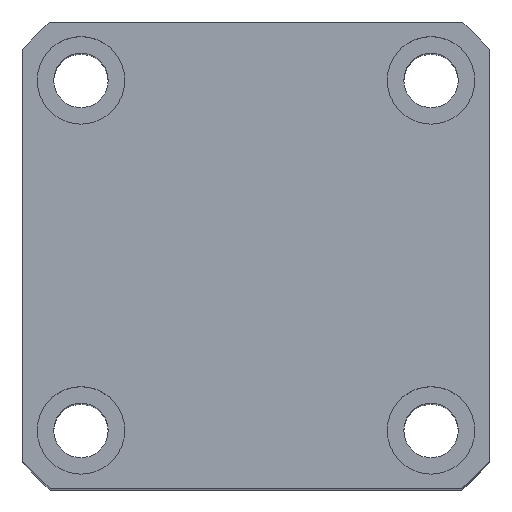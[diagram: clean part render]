
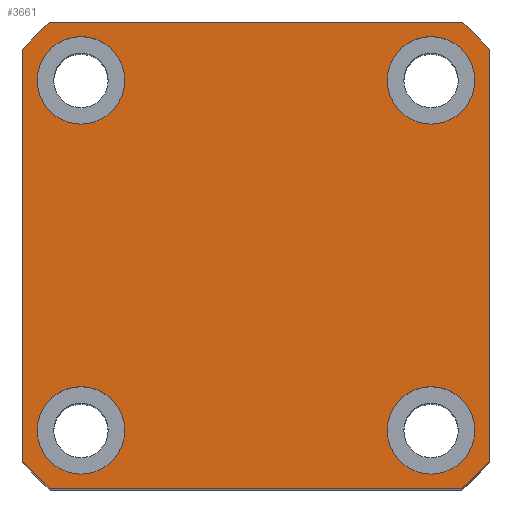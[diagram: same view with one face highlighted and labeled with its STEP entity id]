
A CAD part, top view. The second image highlights one B-rep face of the part: STEP entity #3661.
In plain terms, the highlighted planar face has unit normal (0, 0, 1) as drawn and (1, 0, 0) by its records, which use the part's own axes.
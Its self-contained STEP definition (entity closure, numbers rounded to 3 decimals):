
#20 = EDGE_CURVE ( 'NONE', #6893, #7497, #6027, .T. ) ;
#34 = ORIENTED_EDGE ( 'NONE', *, *, #2270, .T. ) ;
#135 = ORIENTED_EDGE ( 'NONE', *, *, #725, .T. ) ;
#136 = EDGE_CURVE ( 'NONE', #5749, #6893, #7456, .T. ) ;
#175 = CARTESIAN_POINT ( 'NONE',  ( 75., 18., -22.5 ) ) ;
#290 = AXIS2_PLACEMENT_3D ( 'NONE', #2028, #6353, #2655 ) ;
#330 = EDGE_CURVE ( 'NONE', #2389, #5749, #2932, .T. ) ;
#376 = CARTESIAN_POINT ( 'NONE',  ( 75., 24., 21.166 ) ) ;
#396 = ORIENTED_EDGE ( 'NONE', *, *, #5727, .F. ) ;
#493 = DIRECTION ( 'NONE',  ( 1., 0., 0. ) ) ;
#514 = DIRECTION ( 'NONE',  ( 0., 1., 0. ) ) ;
#526 = CIRCLE ( 'NONE', #290, 4.5 ) ;
#586 = CARTESIAN_POINT ( 'NONE',  ( 75., 24., -24. ) ) ;
#621 = VERTEX_POINT ( 'NONE', #5380 ) ;
#698 = CARTESIAN_POINT ( 'NONE',  ( 75., -18., -13.5 ) ) ;
#725 = EDGE_CURVE ( 'NONE', #7164, #621, #3685, .T. ) ;
#807 = ORIENTED_EDGE ( 'NONE', *, *, #20, .T. ) ;
#917 = DIRECTION ( 'NONE',  ( 1., 0., 0. ) ) ;
#933 = VERTEX_POINT ( 'NONE', #4382 ) ;
#990 = EDGE_CURVE ( 'NONE', #7497, #933, #3775, .T. ) ;
#1060 = AXIS2_PLACEMENT_3D ( 'NONE', #5251, #1527, #5865 ) ;
#1171 = CARTESIAN_POINT ( 'NONE',  ( 75., -18., 22.5 ) ) ;
#1298 = EDGE_CURVE ( 'NONE', #4623, #3463, #6117, .T. ) ;
#1354 = VERTEX_POINT ( 'NONE', #2365 ) ;
#1400 = EDGE_CURVE ( 'NONE', #3550, #5924, #5737, .T. ) ;
#1449 = CARTESIAN_POINT ( 'NONE',  ( 75., -21.166, -24. ) ) ;
#1452 = FACE_BOUND ( 'NONE', #7774, .T. ) ;
#1455 = CARTESIAN_POINT ( 'NONE',  ( 75., 0., 0. ) ) ;
#1527 = DIRECTION ( 'NONE',  ( 1., 0., 0. ) ) ;
#1645 = CIRCLE ( 'NONE', #1060, 4.5 ) ;
#1787 = VERTEX_POINT ( 'NONE', #175 ) ;
#1855 = FACE_BOUND ( 'NONE', #2293, .T. ) ;
#1866 = CARTESIAN_POINT ( 'NONE',  ( 75., -24., 21.166 ) ) ;
#1975 = EDGE_LOOP ( 'NONE', ( #807, #5551, #7912, #7898, #135, #34, #6076, #6562 ) ) ;
#1980 = DIRECTION ( 'NONE',  ( 0., 0., -1. ) ) ;
#2028 = CARTESIAN_POINT ( 'NONE',  ( 75., 18., -18. ) ) ;
#2088 = CARTESIAN_POINT ( 'NONE',  ( 75., 21.166, -24. ) ) ;
#2207 = DIRECTION ( 'NONE',  ( 1., 0., 0. ) ) ;
#2216 = AXIS2_PLACEMENT_3D ( 'NONE', #3588, #2242, #2229 ) ;
#2229 = DIRECTION ( 'NONE',  ( 0., 0., -1. ) ) ;
#2242 = DIRECTION ( 'NONE',  ( 1., 0., 0. ) ) ;
#2260 = EDGE_LOOP ( 'NONE', ( #5970, #396 ) ) ;
#2270 = EDGE_CURVE ( 'NONE', #621, #2389, #6493, .T. ) ;
#2287 = CARTESIAN_POINT ( 'NONE',  ( 75., 0., 0. ) ) ;
#2293 = EDGE_LOOP ( 'NONE', ( #3316, #3337 ) ) ;
#2365 = CARTESIAN_POINT ( 'NONE',  ( 75., 18., -13.5 ) ) ;
#2389 = VERTEX_POINT ( 'NONE', #1866 ) ;
#2489 = CARTESIAN_POINT ( 'NONE',  ( 75., 18., 18. ) ) ;
#2490 = DIRECTION ( 'NONE',  ( 1., 0., 0. ) ) ;
#2495 = DIRECTION ( 'NONE',  ( 0., 0., -1. ) ) ;
#2507 = CARTESIAN_POINT ( 'NONE',  ( 75., -18., 18. ) ) ;
#2616 = CIRCLE ( 'NONE', #5482, 4.5 ) ;
#2655 = DIRECTION ( 'NONE',  ( 0., 0., -1. ) ) ;
#2687 = ORIENTED_EDGE ( 'NONE', *, *, #7408, .F. ) ;
#2696 = VERTEX_POINT ( 'NONE', #4759 ) ;
#2741 = VERTEX_POINT ( 'NONE', #1171 ) ;
#2797 = VERTEX_POINT ( 'NONE', #376 ) ;
#2826 = CARTESIAN_POINT ( 'NONE',  ( 75., -18., -22.5 ) ) ;
#2906 = DIRECTION ( 'NONE',  ( 0., 0., -1. ) ) ;
#2932 = LINE ( 'NONE', #6322, #6688 ) ;
#2961 = ORIENTED_EDGE ( 'NONE', *, *, #7230, .F. ) ;
#3005 = AXIS2_PLACEMENT_3D ( 'NONE', #2287, #6597, #2906 ) ;
#3054 = CARTESIAN_POINT ( 'NONE',  ( 75., 18., -18. ) ) ;
#3075 = ORIENTED_EDGE ( 'NONE', *, *, #1298, .F. ) ;
#3126 = DIRECTION ( 'NONE',  ( 0., 0., -1. ) ) ;
#3138 = DIRECTION ( 'NONE',  ( 0., 0., -1. ) ) ;
#3162 = DIRECTION ( 'NONE',  ( 1., 0., 0. ) ) ;
#3237 = CARTESIAN_POINT ( 'NONE',  ( 75., 0., 0. ) ) ;
#3279 = AXIS2_PLACEMENT_3D ( 'NONE', #5910, #2207, #6521 ) ;
#3316 = ORIENTED_EDGE ( 'NONE', *, *, #6450, .F. ) ;
#3337 = ORIENTED_EDGE ( 'NONE', *, *, #1400, .F. ) ;
#3374 = VECTOR ( 'NONE', #6611, 1000. ) ;
#3381 = AXIS2_PLACEMENT_3D ( 'NONE', #3054, #7365, #3663 ) ;
#3463 = VERTEX_POINT ( 'NONE', #698 ) ;
#3489 = VECTOR ( 'NONE', #4983, 1000. ) ;
#3550 = VERTEX_POINT ( 'NONE', #6018 ) ;
#3588 = CARTESIAN_POINT ( 'NONE',  ( 75., -18., -18. ) ) ;
#3661 = ADVANCED_FACE ( 'NONE', ( #6402, #4944, #1452, #1855, #7851 ), #3833, .T. ) ;
#3663 = DIRECTION ( 'NONE',  ( 0., 0., -1. ) ) ;
#3685 = LINE ( 'NONE', #4938, #3489 ) ;
#3747 = DIRECTION ( 'NONE',  ( 0., 0., -1. ) ) ;
#3757 = DIRECTION ( 'NONE',  ( 1., 0., 0. ) ) ;
#3766 = CARTESIAN_POINT ( 'NONE',  ( 75., 0., 0. ) ) ;
#3775 = CIRCLE ( 'NONE', #4434, 32. ) ;
#3833 = PLANE ( 'NONE',  #6169 ) ;
#3856 = AXIS2_PLACEMENT_3D ( 'NONE', #2489, #2490, #2495 ) ;
#3903 = AXIS2_PLACEMENT_3D ( 'NONE', #1455, #493, #1980 ) ;
#4045 = CIRCLE ( 'NONE', #3279, 4.5 ) ;
#4115 = EDGE_CURVE ( 'NONE', #933, #2797, #6867, .T. ) ;
#4290 = DIRECTION ( 'NONE',  ( 0., 0., -1. ) ) ;
#4313 = DIRECTION ( 'NONE',  ( 1., 0., 0. ) ) ;
#4344 = CARTESIAN_POINT ( 'NONE',  ( 75., 0., 0. ) ) ;
#4382 = CARTESIAN_POINT ( 'NONE',  ( 75., 24., -21.166 ) ) ;
#4387 = VECTOR ( 'NONE', #514, 1000. ) ;
#4434 = AXIS2_PLACEMENT_3D ( 'NONE', #3766, #3757, #3747 ) ;
#4623 = VERTEX_POINT ( 'NONE', #2826 ) ;
#4651 = CARTESIAN_POINT ( 'NONE',  ( 75., -18., 18. ) ) ;
#4759 = CARTESIAN_POINT ( 'NONE',  ( 75., -18., 13.5 ) ) ;
#4796 = CARTESIAN_POINT ( 'NONE',  ( 75., 18., 13.5 ) ) ;
#4909 = EDGE_LOOP ( 'NONE', ( #3075, #6630 ) ) ;
#4938 = CARTESIAN_POINT ( 'NONE',  ( 75., 24., 24. ) ) ;
#4944 = FACE_BOUND ( 'NONE', #2260, .T. ) ;
#4979 = AXIS2_PLACEMENT_3D ( 'NONE', #4344, #4313, #4290 ) ;
#4983 = DIRECTION ( 'NONE',  ( 0., -1., 0. ) ) ;
#5129 = CIRCLE ( 'NONE', #6498, 4.5 ) ;
#5251 = CARTESIAN_POINT ( 'NONE',  ( 75., -18., -18. ) ) ;
#5289 = DIRECTION ( 'NONE',  ( 0., 0., -1. ) ) ;
#5380 = CARTESIAN_POINT ( 'NONE',  ( 75., -21.166, 24. ) ) ;
#5482 = AXIS2_PLACEMENT_3D ( 'NONE', #2507, #6826, #3126 ) ;
#5551 = ORIENTED_EDGE ( 'NONE', *, *, #990, .T. ) ;
#5727 = EDGE_CURVE ( 'NONE', #2741, #2696, #5129, .T. ) ;
#5737 = CIRCLE ( 'NONE', #3856, 4.5 ) ;
#5749 = VERTEX_POINT ( 'NONE', #6514 ) ;
#5865 = DIRECTION ( 'NONE',  ( 0., 0., -1. ) ) ;
#5910 = CARTESIAN_POINT ( 'NONE',  ( 75., 18., 18. ) ) ;
#5912 = CIRCLE ( 'NONE', #3381, 4.5 ) ;
#5924 = VERTEX_POINT ( 'NONE', #4796 ) ;
#5970 = ORIENTED_EDGE ( 'NONE', *, *, #7324, .F. ) ;
#6018 = CARTESIAN_POINT ( 'NONE',  ( 75., 18., 22.5 ) ) ;
#6027 = LINE ( 'NONE', #586, #4387 ) ;
#6076 = ORIENTED_EDGE ( 'NONE', *, *, #330, .T. ) ;
#6117 = CIRCLE ( 'NONE', #2216, 4.5 ) ;
#6169 = AXIS2_PLACEMENT_3D ( 'NONE', #3237, #3162, #3138 ) ;
#6322 = CARTESIAN_POINT ( 'NONE',  ( 75., -24., 24. ) ) ;
#6353 = DIRECTION ( 'NONE',  ( 1., 0., 0. ) ) ;
#6370 = DIRECTION ( 'NONE',  ( 0., 0., -1. ) ) ;
#6402 = FACE_BOUND ( 'NONE', #4909, .T. ) ;
#6450 = EDGE_CURVE ( 'NONE', #5924, #3550, #4045, .T. ) ;
#6493 = CIRCLE ( 'NONE', #4979, 32. ) ;
#6498 = AXIS2_PLACEMENT_3D ( 'NONE', #4651, #917, #5289 ) ;
#6514 = CARTESIAN_POINT ( 'NONE',  ( 75., -24., -21.166 ) ) ;
#6521 = DIRECTION ( 'NONE',  ( 0., 0., -1. ) ) ;
#6562 = ORIENTED_EDGE ( 'NONE', *, *, #136, .T. ) ;
#6583 = CARTESIAN_POINT ( 'NONE',  ( 75., 24., 24. ) ) ;
#6597 = DIRECTION ( 'NONE',  ( 1., 0., 0. ) ) ;
#6611 = DIRECTION ( 'NONE',  ( 0., 0., 1. ) ) ;
#6612 = CARTESIAN_POINT ( 'NONE',  ( 75., 21.166, 24. ) ) ;
#6630 = ORIENTED_EDGE ( 'NONE', *, *, #7593, .F. ) ;
#6688 = VECTOR ( 'NONE', #6370, 1000. ) ;
#6826 = DIRECTION ( 'NONE',  ( 1., 0., 0. ) ) ;
#6867 = LINE ( 'NONE', #6583, #3374 ) ;
#6893 = VERTEX_POINT ( 'NONE', #1449 ) ;
#7164 = VERTEX_POINT ( 'NONE', #6612 ) ;
#7230 = EDGE_CURVE ( 'NONE', #1787, #1354, #5912, .T. ) ;
#7324 = EDGE_CURVE ( 'NONE', #2696, #2741, #2616, .T. ) ;
#7365 = DIRECTION ( 'NONE',  ( 1., 0., 0. ) ) ;
#7408 = EDGE_CURVE ( 'NONE', #1354, #1787, #526, .T. ) ;
#7456 = CIRCLE ( 'NONE', #3903, 32. ) ;
#7497 = VERTEX_POINT ( 'NONE', #2088 ) ;
#7593 = EDGE_CURVE ( 'NONE', #3463, #4623, #1645, .T. ) ;
#7774 = EDGE_LOOP ( 'NONE', ( #2961, #2687 ) ) ;
#7851 = FACE_OUTER_BOUND ( 'NONE', #1975, .T. ) ;
#7898 = ORIENTED_EDGE ( 'NONE', *, *, #7961, .T. ) ;
#7912 = ORIENTED_EDGE ( 'NONE', *, *, #4115, .T. ) ;
#7931 = CIRCLE ( 'NONE', #3005, 32. ) ;
#7961 = EDGE_CURVE ( 'NONE', #2797, #7164, #7931, .T. ) ;
